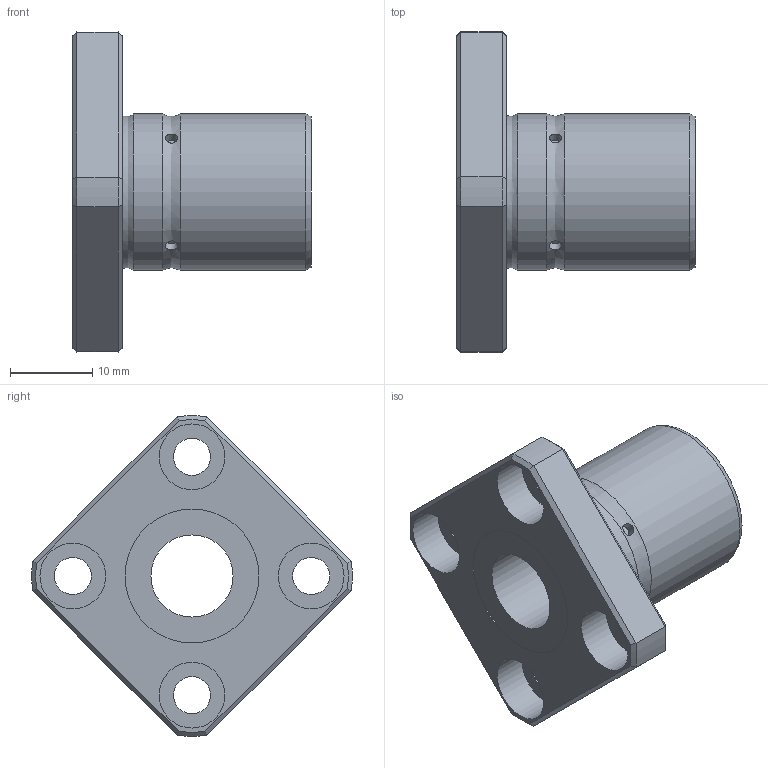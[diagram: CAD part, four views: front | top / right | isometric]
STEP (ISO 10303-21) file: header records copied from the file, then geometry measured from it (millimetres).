
FILE_DESCRIPTION((''),'2;1');
FILE_NAME('D:\製品 (図面)\カタログ用3D\リニアベアリング関連\STEP形式\LFK-OH\LFK10-OH.stp','2010-06-04T08:55:09',('Tsuchiya'),(''),'Autodesk Inventor 10','Autodesk Inventor 10','');
FILE_SCHEMA(('AUTOMOTIVE_DESIGN { 1 0 10303 214 1 1 1 1 }'));
Length unit declared in the file: millimetre
Products named in the file (1): LFK10-OH
Bounding box: 29 x 38.98 x 38.98 mm (x, y, z)
Volume: 8485.5 mm3; surface area: 4948.4 mm2
Topology: 1 solids, 1 shells, 57 faces, 116 edges, 72 vertices
Faces by surface type: cylinder 21, plane 21, cone 8, bspline 6, torus 1
Full cylindrical faces by diameter (mm): 4.5 x4, 8 x4, 10 x1, 16.3 x2, 19 x2
Entity records: 1917 total; most frequent: CARTESIAN_POINT 814, DIRECTION 216, ORIENTED_EDGE 184, EDGE_LOOP 98, AXIS2_PLACEMENT_3D 96, EDGE_CURVE 92, VERTEX_POINT 68, FACE_OUTER_BOUND 57
